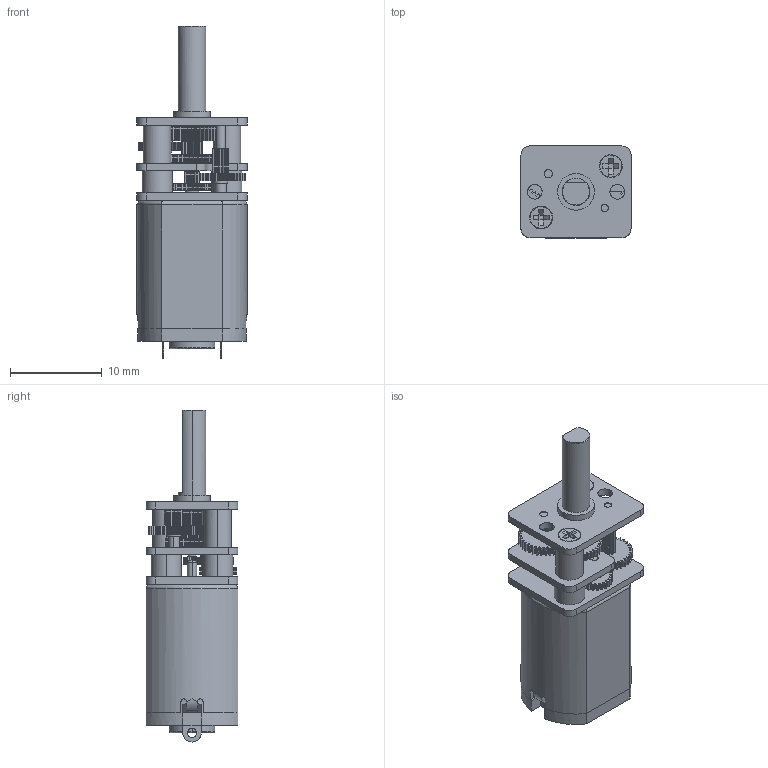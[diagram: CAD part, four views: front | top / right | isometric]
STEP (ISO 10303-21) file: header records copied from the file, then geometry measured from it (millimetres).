
FILE_DESCRIPTION (( 'STEP AP214' ), '1' );
FILE_NAME ('micro-metal-gearmotor-carbon.STEP', '2022-05-04T14:58:18', ( '' ), ( '' ), 'SwSTEP 2.0', 'SolidWorks 2020', '' );
FILE_SCHEMA (( 'AUTOMOTIVE_DESIGN' ));
Length unit declared in the file: millimetre
Products named in the file (1): micro-metal-gearmotor-carbon
Bounding box: 12 x 10 x 36.2 mm (x, y, z)
Volume: 2146.9 mm3; surface area: 2205.7 mm2
Topology: 1 solids, 5 shells, 2258 faces, 6789 edges, 4597 vertices
Faces by surface type: cylinder 1234, plane 712, bspline 304, cone 6, torus 2
Entity records: 121157 total; most frequent: CARTESIAN_POINT 47541, ORIENTED_EDGE 13578, EDGE_CURVE 6789, B_SPLINE_CURVE_WITH_KNOTS 5738, DIRECTION 4996, VERTEX_POINT 4597, EDGE_LOOP 2356, FACE_OUTER_BOUND 2258
